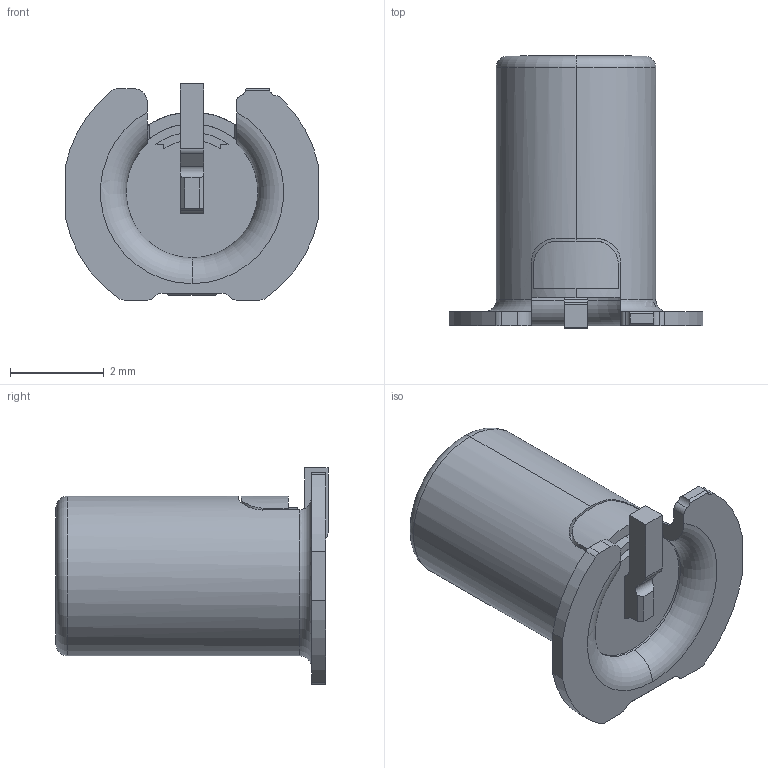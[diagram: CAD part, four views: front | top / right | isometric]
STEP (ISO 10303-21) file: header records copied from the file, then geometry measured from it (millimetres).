
FILE_DESCRIPTION((''),'2;1');
FILE_NAME('228C-PS01_C_1','2026-01-21T',('fros.liao'),(''),'CREO PARAMETRIC BY PTC INC, 2018360','CREO PARAMETRIC BY PTC INC, 2018360','');
FILE_SCHEMA(('CONFIG_CONTROL_DESIGN'));
Length unit declared in the file: millimetre
Products named in the file (1): 228C-PS01_C_1
Bounding box: 5.4 x 5.79 x 4.6 mm (x, y, z)
Volume: 39.8 mm3; surface area: 137.5 mm2
Topology: 1 solids, 1 shells, 94 faces, 255 edges, 167 vertices
Faces by surface type: cylinder 43, plane 41, torus 6, cone 2, bspline 2
Entity records: 3195 total; most frequent: CARTESIAN_POINT 739, DIRECTION 516, ORIENTED_EDGE 510, EDGE_CURVE 255, AXIS2_PLACEMENT_3D 191, VERTEX_POINT 167, VECTOR 134, LINE 134
